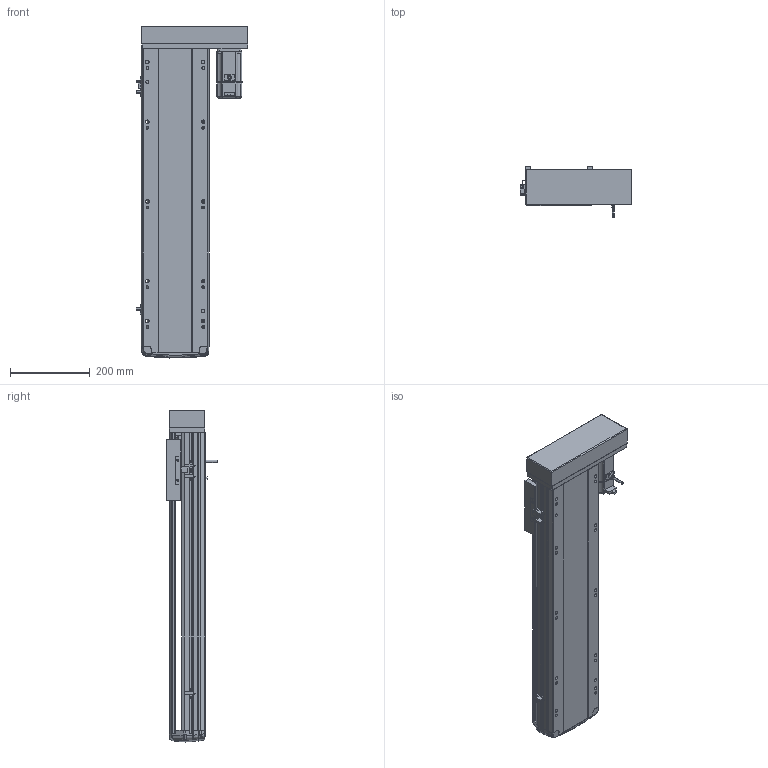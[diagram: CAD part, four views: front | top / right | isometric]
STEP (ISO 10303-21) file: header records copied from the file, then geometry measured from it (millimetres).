
FILE_DESCRIPTION (( 'STEP AP214' ), '1' );
FILE_NAME ('RTH17-XX-550-L-M40-C4.STEP', '2025-10-24T08:46:04', ( '' ), ( '' ), 'SwSTEP 2.0', 'SolidWorks 2018', '' );
FILE_SCHEMA (( 'AUTOMOTIVE_DESIGN' ));
Length unit declared in the file: millimetre
Products named in the file (10): N_M40^RTH17-XX-XX-L-M40-C4（方程式）; N_RTH17-E-004丝杆螺母连接座^RTH17-XX-XX-L-M40-C4（方程式）; N_RTH17-GY-001P^RTH17-XX-XX-L-M40-C4（方程式）; N_OMRON EE-SX672 換覜ん^RTH17-XX-XX-L-M40-C4ㄗ源最宒ㄘ; N_RTH17-M-011底座^RTH17-XX-XX-L-M40-C4（方程式）; N_RTH17-M-007上盖^RTH17-XX-XX-L-M40-C4（方程式）; N_RTH-BL-012 感应片(外置)^RTH17-XX-XX-L-M40-C4（方程式）; N_RTH17-L-008-P40电机安装板左转折^RTH17-XX-XX-L-M40-C4（方程式）; RTH17-XX-550-L-M40-C4; N_RTH17-L-018盖子^RTH17-XX-XX-L-M40-C4（方程式）
Assembly tree (11 placements, depth 2):
  RTH17-XX-550-L-M40-C4
    N_RTH17-M-011底座^RTH17-XX-XX-L-M40-C4（方程式）
    N_RTH17-M-007上盖^RTH17-XX-XX-L-M40-C4（方程式）
    N_M40^RTH17-XX-XX-L-M40-C4（方程式）
    N_OMRON EE-SX672 換覜ん^RTH17-XX-XX-L-M40-C4ㄗ源最宒ㄘ  x3
    N_RTH-BL-012 感应片(外置)^RTH17-XX-XX-L-M40-C4（方程式）
    N_RTH17-L-008-P40电机安装板左转折^RTH17-XX-XX-L-M40-C4（方程式）
    N_RTH17-L-018盖子^RTH17-XX-XX-L-M40-C4（方程式）
    N_RTH17-E-004丝杆螺母连接座^RTH17-XX-XX-L-M40-C4（方程式）
    N_RTH17-GY-001P^RTH17-XX-XX-L-M40-C4（方程式）
Bounding box: 281 x 127 x 832.99 mm (x, y, z)
Volume: 7743436.1 mm3; surface area: 1001243.5 mm2
Topology: 13 solids, 15 shells, 1647 faces, 4575 edges, 2982 vertices
Faces by surface type: plane 833, cylinder 447, bspline 330, cone 28, torus 9
Entity records: 47838 total; most frequent: CARTESIAN_POINT 19381, ORIENTED_EDGE 6174, DIRECTION 5089, EDGE_CURVE 3091, VERTEX_POINT 2018, LINE 1747, VECTOR 1747, AXIS2_PLACEMENT_3D 1671
